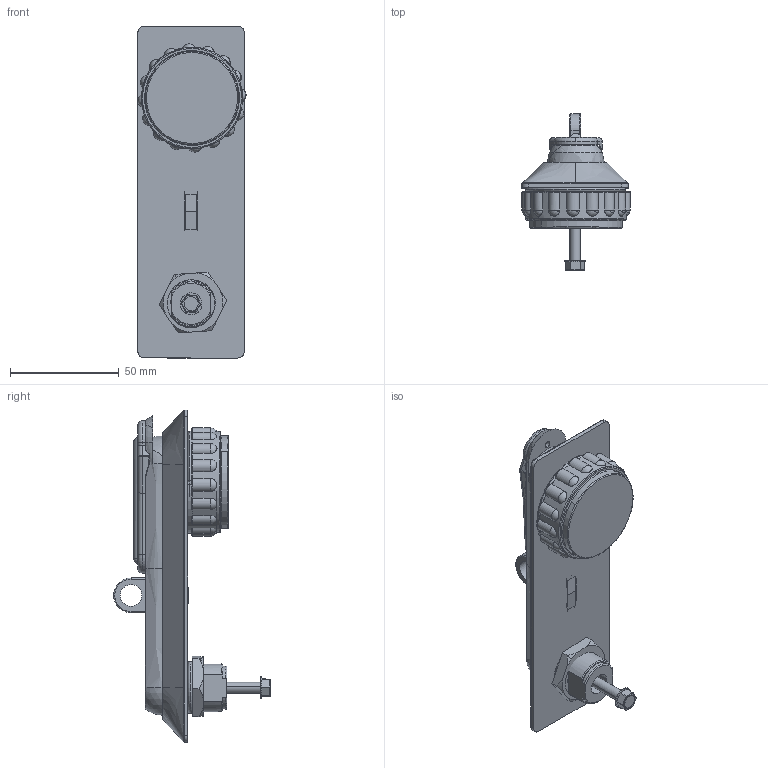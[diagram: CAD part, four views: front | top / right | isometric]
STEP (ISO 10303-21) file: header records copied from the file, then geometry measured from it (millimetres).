
FILE_DESCRIPTION (( 'STEP AP214' ), '1' );
FILE_NAME ('RS500-U.STEP', '2010-02-25T12:33:51', ( 'Techniczny' ), ( 'RST Roztocze' ), 'SwSTEP 2.0', 'SolidWorks 2010', '' );
FILE_SCHEMA (( 'AUTOMOTIVE_DESIGN' ));
Length unit declared in the file: millimetre
Products named in the file (14): RS200-nakrêtka-ma³a; 1B.RS100-U.02.04.00_Default; M5 x 16; O-RING 12x2; 1B.RS100.01.04.00; O-RING 45 x 2; Zapinka RESS; 1B.RS300.01.05.00; 1B.RS100.01.03.00; 1B.RS500-U.02.01.00_Default; RS500-U; 1B.RS 100.01.06.00; 1B.RS400-U.01.01.00_Ucho; 1B. RS100.02.02.00
Assembly tree (13 placements, depth 2):
  RS500-U
    Zapinka RESS
    M5 x 16
    O-RING 12x2
    1B.RS 100.01.06.00
    1B.RS100.01.03.00
    1B.RS400-U.01.01.00_Ucho
    RS200-nakrêtka-ma³a
    1B.RS100-U.02.04.00_Default
    1B. RS100.02.02.00
    O-RING 45 x 2
    1B.RS500-U.02.01.00_Default
    1B.RS300.01.05.00
    1B.RS100.01.04.00
Bounding box: 49.86 x 72.16 x 153 mm (x, y, z)
Volume: 97721.6 mm3; surface area: 56929.4 mm2
Topology: 13 solids, 13 shells, 558 faces, 1432 edges, 896 vertices
Faces by surface type: cylinder 181, plane 163, torus 90, bspline 60, sphere 38, cone 26
Entity records: 24295 total; most frequent: CARTESIAN_POINT 9835, ORIENTED_EDGE 2826, DIRECTION 2772, EDGE_CURVE 1413, AXIS2_PLACEMENT_3D 1092, VERTEX_POINT 889, EDGE_LOOP 594, VECTOR 588
